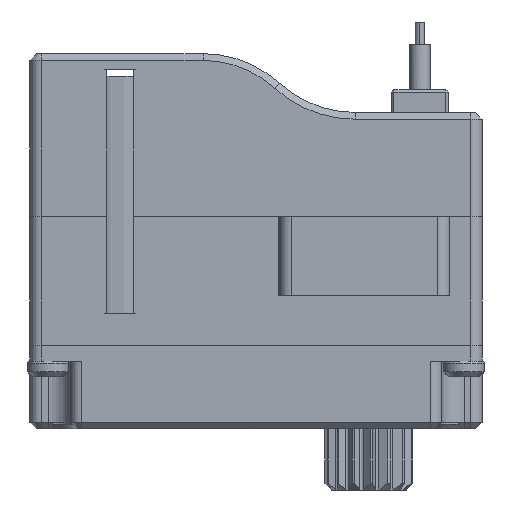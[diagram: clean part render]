
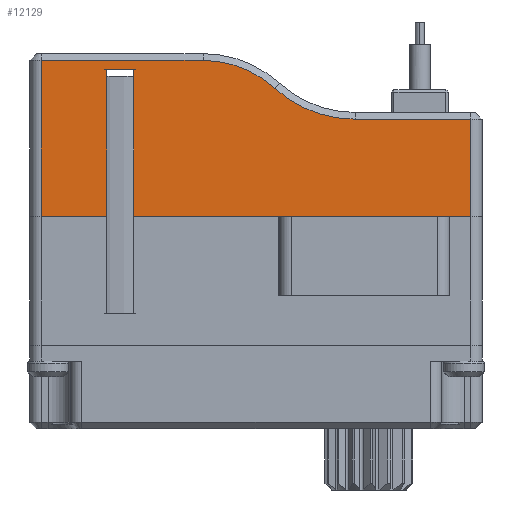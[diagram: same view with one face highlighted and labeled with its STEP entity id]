
A CAD part, front view. The second image highlights one B-rep face of the part: STEP entity #12129.
In plain terms, the highlighted planar face has unit normal (0, -1, 0).
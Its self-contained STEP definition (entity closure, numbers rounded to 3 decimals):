
#30 = CARTESIAN_POINT ( 'NONE',  ( -61.402, -6.789, 10.7 ) ) ;
#307 = EDGE_CURVE ( 'NONE', #8713, #2815, #15075, .T. ) ;
#338 = EDGE_CURVE ( 'NONE', #12861, #12249, #12742, .T. ) ;
#488 = DIRECTION ( 'NONE',  ( 0., 0., 1. ) ) ;
#850 = CARTESIAN_POINT ( 'NONE',  ( -51.08, -6.789, 9.178 ) ) ;
#853 = EDGE_CURVE ( 'NONE', #4863, #12861, #12312, .T. ) ;
#960 = CARTESIAN_POINT ( 'NONE',  ( -41.902, -6.789, 3.5 ) ) ;
#1435 = CARTESIAN_POINT ( 'NONE',  ( -58.496, -6.789, 8.5 ) ) ;
#1764 = EDGE_CURVE ( 'NONE', #3504, #1864, #13027, .T. ) ;
#1864 = VERTEX_POINT ( 'NONE', #10974 ) ;
#2057 = DIRECTION ( 'NONE',  ( -1., 0., 0. ) ) ;
#2069 = DIRECTION ( 'NONE',  ( 0., 0., -1. ) ) ;
#2267 = VECTOR ( 'NONE', #11844, 1000. ) ;
#2645 = CIRCLE ( 'NONE', #7712, 4.7 ) ;
#2695 = CARTESIAN_POINT ( 'NONE',  ( -58.496, -6.789, 3.5 ) ) ;
#2774 = ORIENTED_EDGE ( 'NONE', *, *, #14576, .F. ) ;
#2815 = VERTEX_POINT ( 'NONE', #3651 ) ;
#3139 = EDGE_CURVE ( 'NONE', #5211, #4766, #13209, .T. ) ;
#3259 = VECTOR ( 'NONE', #13465, 1000. ) ;
#3299 = VECTOR ( 'NONE', #488, 1000. ) ;
#3385 = CARTESIAN_POINT ( 'NONE',  ( -42.402, -6.789, 7.8 ) ) ;
#3504 = VERTEX_POINT ( 'NONE', #10999 ) ;
#3651 = CARTESIAN_POINT ( 'NONE',  ( -61.402, -6.789, 10.4 ) ) ;
#3968 = DIRECTION ( 'NONE',  ( 0., 0., -1. ) ) ;
#3989 = VECTOR ( 'NONE', #2057, 1000. ) ;
#4014 = FACE_OUTER_BOUND ( 'NONE', #6658, .T. ) ;
#4156 = DIRECTION ( 'NONE',  ( 0., -1., 0. ) ) ;
#4201 = AXIS2_PLACEMENT_3D ( 'NONE', #9797, #12269, #3968 ) ;
#4207 = CARTESIAN_POINT ( 'NONE',  ( -61.402, -6.789, 3.5 ) ) ;
#4339 = CARTESIAN_POINT ( 'NONE',  ( -42.402, -6.789, 3.5 ) ) ;
#4569 = VECTOR ( 'NONE', #14840, 1000. ) ;
#4592 = CARTESIAN_POINT ( 'NONE',  ( -57.308, -6.789, 10. ) ) ;
#4766 = VERTEX_POINT ( 'NONE', #2695 ) ;
#4863 = VERTEX_POINT ( 'NONE', #3385 ) ;
#5124 = EDGE_CURVE ( 'NONE', #12249, #8713, #2645, .T. ) ;
#5211 = VERTEX_POINT ( 'NONE', #4207 ) ;
#5295 = VERTEX_POINT ( 'NONE', #10416 ) ;
#5527 = ORIENTED_EDGE ( 'NONE', *, *, #6387, .T. ) ;
#5570 = DIRECTION ( 'NONE',  ( 1., 0., 0. ) ) ;
#5734 = DIRECTION ( 'NONE',  ( 0., 1., 0. ) ) ;
#5793 = CARTESIAN_POINT ( 'NONE',  ( -47.515, -6.789, 7.8 ) ) ;
#6055 = CARTESIAN_POINT ( 'NONE',  ( -61.402, -6.789, 10.4 ) ) ;
#6387 = EDGE_CURVE ( 'NONE', #11041, #4863, #10475, .T. ) ;
#6533 = DIRECTION ( 'NONE',  ( 0., 0., -1. ) ) ;
#6605 = AXIS2_PLACEMENT_3D ( 'NONE', #14235, #5734, #10721 ) ;
#6658 = EDGE_LOOP ( 'NONE', ( #11445, #8574, #15720, #8872, #6983, #12993, #2774, #11135, #9781, #5527, #14333 ) ) ;
#6671 = CARTESIAN_POINT ( 'NONE',  ( -42.402, -6.789, 10.7 ) ) ;
#6731 = PLANE ( 'NONE',  #6605 ) ;
#6983 = ORIENTED_EDGE ( 'NONE', *, *, #3139, .T. ) ;
#7712 = AXIS2_PLACEMENT_3D ( 'NONE', #8934, #4156, #6533 ) ;
#8158 = CARTESIAN_POINT ( 'NONE',  ( -41.902, -6.789, 3.5 ) ) ;
#8200 = LINE ( 'NONE', #4592, #3989 ) ;
#8574 = ORIENTED_EDGE ( 'NONE', *, *, #5124, .T. ) ;
#8713 = VERTEX_POINT ( 'NONE', #12279 ) ;
#8764 = EDGE_CURVE ( 'NONE', #4766, #5295, #14475, .T. ) ;
#8840 = VECTOR ( 'NONE', #9533, 1000. ) ;
#8872 = ORIENTED_EDGE ( 'NONE', *, *, #9877, .T. ) ;
#8934 = CARTESIAN_POINT ( 'NONE',  ( -54.242, -6.789, 5.7 ) ) ;
#9067 = CARTESIAN_POINT ( 'NONE',  ( -47.515, -6.789, 7.8 ) ) ;
#9533 = DIRECTION ( 'NONE',  ( -1., 0., 0. ) ) ;
#9781 = ORIENTED_EDGE ( 'NONE', *, *, #12064, .T. ) ;
#9797 = CARTESIAN_POINT ( 'NONE',  ( -47.515, -6.789, 13.1 ) ) ;
#9877 = EDGE_CURVE ( 'NONE', #2815, #5211, #13264, .T. ) ;
#9918 = VECTOR ( 'NONE', #5570, 1000. ) ;
#10416 = CARTESIAN_POINT ( 'NONE',  ( -58.496, -6.789, 10. ) ) ;
#10475 = LINE ( 'NONE', #6671, #3299 ) ;
#10721 = DIRECTION ( 'NONE',  ( 0., 0., -1. ) ) ;
#10974 = CARTESIAN_POINT ( 'NONE',  ( -57.308, -6.789, 3.5 ) ) ;
#10999 = CARTESIAN_POINT ( 'NONE',  ( -57.308, -6.789, 10. ) ) ;
#11041 = VERTEX_POINT ( 'NONE', #4339 ) ;
#11135 = ORIENTED_EDGE ( 'NONE', *, *, #1764, .T. ) ;
#11198 = VECTOR ( 'NONE', #12452, 1000. ) ;
#11445 = ORIENTED_EDGE ( 'NONE', *, *, #338, .T. ) ;
#11662 = VECTOR ( 'NONE', #2069, 1000. ) ;
#11844 = DIRECTION ( 'NONE',  ( 1., 0., 0. ) ) ;
#12064 = EDGE_CURVE ( 'NONE', #1864, #11041, #13691, .T. ) ;
#12129 = ADVANCED_FACE ( 'NONE', ( #4014 ), #6731, .F. ) ;
#12249 = VERTEX_POINT ( 'NONE', #850 ) ;
#12269 = DIRECTION ( 'NONE',  ( 0., 1., 0. ) ) ;
#12279 = CARTESIAN_POINT ( 'NONE',  ( -54.242, -6.789, 10.4 ) ) ;
#12312 = LINE ( 'NONE', #5793, #8840 ) ;
#12452 = DIRECTION ( 'NONE',  ( 0., 0., 1. ) ) ;
#12742 = CIRCLE ( 'NONE', #4201, 5.3 ) ;
#12861 = VERTEX_POINT ( 'NONE', #9067 ) ;
#12993 = ORIENTED_EDGE ( 'NONE', *, *, #8764, .T. ) ;
#13027 = LINE ( 'NONE', #15640, #11662 ) ;
#13209 = LINE ( 'NONE', #960, #9918 ) ;
#13264 = LINE ( 'NONE', #30, #4569 ) ;
#13465 = DIRECTION ( 'NONE',  ( -1., 0., 0. ) ) ;
#13691 = LINE ( 'NONE', #8158, #2267 ) ;
#14235 = CARTESIAN_POINT ( 'NONE',  ( -41.902, -6.789, 10.7 ) ) ;
#14333 = ORIENTED_EDGE ( 'NONE', *, *, #853, .T. ) ;
#14475 = LINE ( 'NONE', #1435, #11198 ) ;
#14576 = EDGE_CURVE ( 'NONE', #3504, #5295, #8200, .T. ) ;
#14840 = DIRECTION ( 'NONE',  ( 0., 0., -1. ) ) ;
#15075 = LINE ( 'NONE', #6055, #3259 ) ;
#15640 = CARTESIAN_POINT ( 'NONE',  ( -57.308, -6.789, 8.5 ) ) ;
#15720 = ORIENTED_EDGE ( 'NONE', *, *, #307, .T. ) ;
